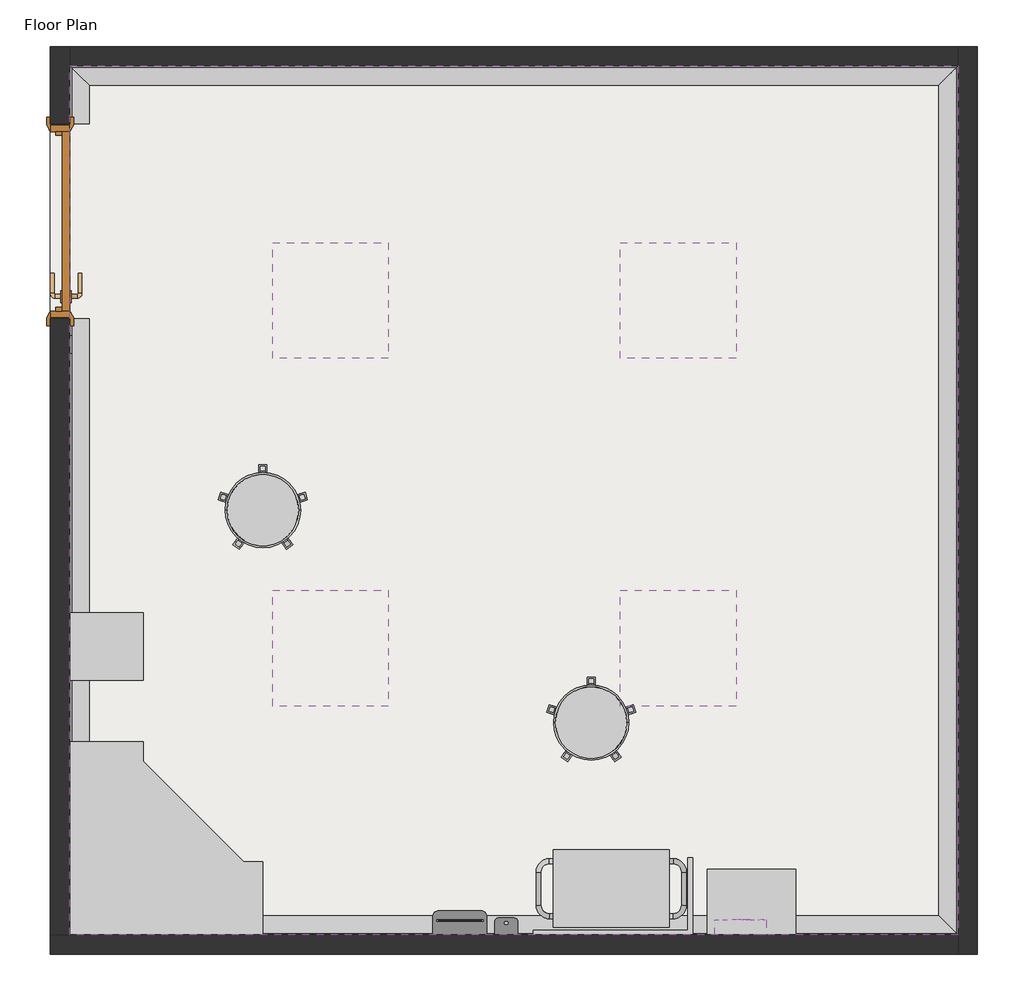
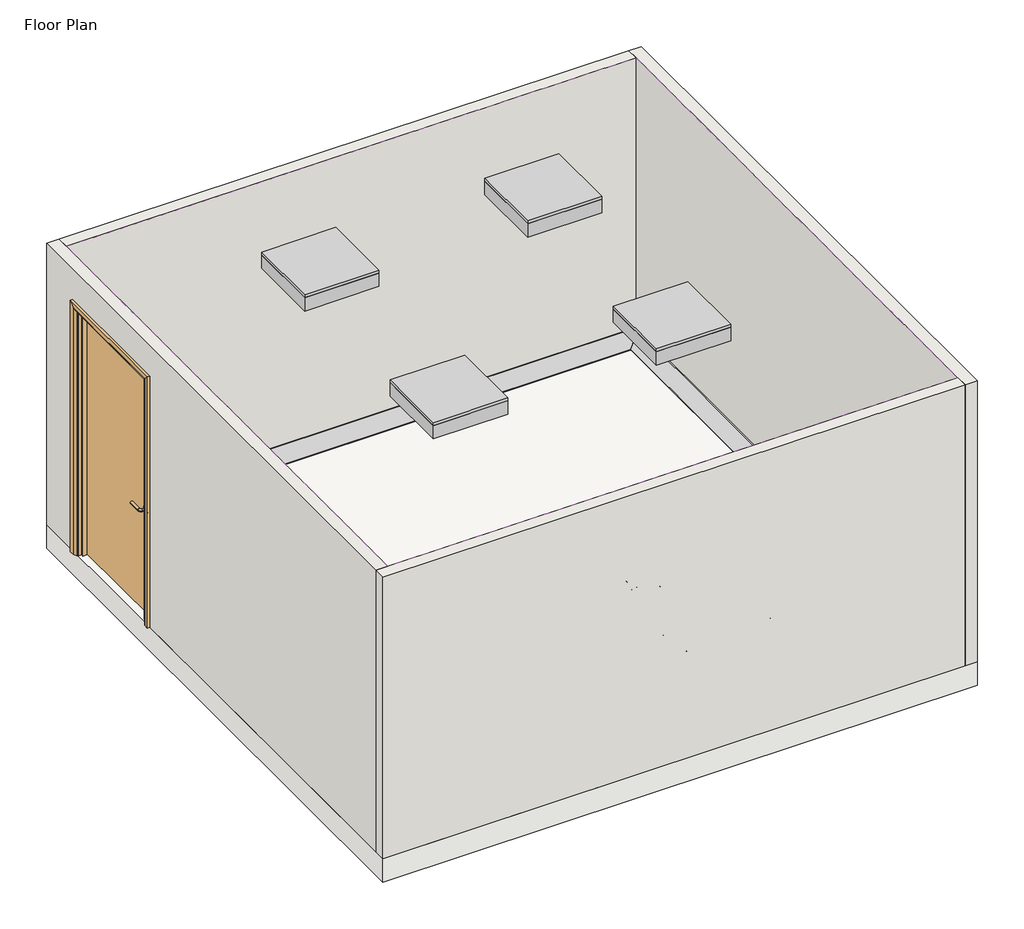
# One storey, incomplete: 13 proxies, 4 light fixtures, 4 walls, 3 furniture elements, 1 covering, 1 door, 1 slab.
"""IFC4 building model written with IfcOpenShell, lengths in millimetres."""

from ifc_helpers import new_model, si_unit, frame, origin, origin_with_axes, place, context, project, spatial, polyline, circle_curve, ellipse_curve, outline, extrude, faceted_brep, transform, mapped, element, save
from ifc_brep_helpers import plane_surface, revolved_surface, advanced_brep
from components import generic_models_a235ff02, generic_models_e5edc786, generic_models_83ba9ecb, generic_models_581be9f4, generic_models_a019e9e6, generic_models_cdc84ac3, bimhealth_electrical_light_switch_v1_type_1_b5e59f8a, bimhealth_trolley_mobile_cart_v1_bimhealth_trolley_mobile_f11bc73b, door_1010x2110mm_ad0e13af, furniture_26d36cfe, furniture_c6a9ce10, furniture_166ce8d1, lighting_fixtures_troffer_parabolic_square_600x600mm_2_lamps_e1dca80e

model = new_model("IFC4")

# Units and contexts
model_context = context("Model", 3, world=origin())
ifc_project = project(units=[si_unit("LENGTHUNIT", "METRE", prefix="MILLI")], contexts=[model_context])

# Site, building, storey
site = spatial("IfcSite", under=ifc_project)
building = spatial("IfcBuilding", under=site)
storey = spatial("IfcBuildingStorey", under=building, Name="Floor Plan", Elevation=0.0)

# Proxies
placement = place(None, origin())
element("IfcBuildingElementProxy", 1, Name="Wall Sweeps", at=placement, inside=storey, context=model_context, shape_type="AdvancedBrep", body=[
    advanced_brep(
    [(4505.0, 4915.0, 0.0), (4405.0, 4815.0, 0.0), (4405.0, 4815.0, 10.0), (4495.0, 4905.0, 100.0), (4505.0, 4915.0, 100.0), (4505.0, 415.0, 0.0), (4505.0, 415.0, 100.0), (4495.0, 425.0, 100.0), (4405.0, 515.0, 10.0), (4405.0, 515.0, 0.0)],
    [
        (0, 1),
        (1, 2),
        (2, 3, ellipse_curve(frame((4405.0, 4815.0, 100.0), z_axis=(0.7071067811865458, -0.7071067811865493, 0.0), x_axis=(-0.7071067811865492, -0.7071067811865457, 0.0)), 127.2792206, 90.0)),
        (3, 4),
        (4, 0),
        (5, 6),
        (6, 7),
        (7, 8, ellipse_curve(frame((4405.0, 515.0, 100.0), z_axis=(0.7071067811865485, 0.7071067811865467, 0.0), x_axis=(0.7071067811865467, -0.7071067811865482, 0.0)), 127.2792206, 90.0)),
        (8, 9),
        (9, 5),
        (0, 5),
        (9, 1),
        (8, 2),
        (7, 3),
        (6, 4),
    ],
    [
        plane_surface(frame((4505.0, 4915.0, 304.8), z_axis=(-0.7071067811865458, 0.7071067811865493, 0.0), x_axis=(-0.7071067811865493, -0.7071067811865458, 0.0))),
        plane_surface(frame((4505.0, 415.0, 304.8), z_axis=(-0.7071067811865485, -0.7071067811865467, 0.0), x_axis=(-0.7071067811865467, 0.7071067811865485, 0.0))),
        plane_surface(frame((4505.0, 4915.0, 0.0), z_axis=(0.0, 0.0, -1.0), x_axis=(0.0, -1.0, 0.0))),
        plane_surface(frame((4405.0, 4815.0, 0.0), z_axis=(-1.0, 0.0, 0.0), x_axis=(0.0, -1.0, 0.0))),
        revolved_surface(polyline([(4315.0, 425.0, 100.0), (4315.0, 4905.0, 100.0)]), (4405.0, 4915.0, 100.0), (0.0, -1.0, 0.0)),
        plane_surface(frame((4495.0, 4905.0, 100.0), z_axis=(0.0, 0.0, 1.0), x_axis=(0.0, -1.0, 0.0))),
        plane_surface(frame((4505.0, 4915.0, 100.0), z_axis=(1.0, 0.0, 0.0), x_axis=(0.0, -1.0, 0.0))),
    ],
    [
        (0, [[1, 2, 3, 4, 5]]),
        (1, [[6, 7, 8, 9, 10]]),
        (2, [[-1, 11, -10, 12]]),
        (3, [[-2, -12, -9, 13]]),
        (4, [[-3, -13, -8, 14]]),
        (5, [[-4, -14, -7, 15]]),
        (6, [[-5, -15, -6, -11]]),
    ],
),
])
element("IfcBuildingElementProxy", 2, Name="Wall Sweeps", at=placement, inside=storey, context=model_context, shape_type="AdvancedBrep", body=[
    advanced_brep(
    [(4505.0, 415.0, 0.0), (4405.0, 515.0, 0.0), (4405.0, 515.0, 10.0), (4495.0, 425.0, 100.0), (4505.0, 415.0, 100.0), (-95.0, 415.0, 0.0), (-95.0, 415.0, 100.0), (-85.0, 425.0, 100.0), (5.0, 515.0, 10.0), (5.0, 515.0, 0.0)],
    [
        (0, 1),
        (1, 2),
        (2, 3, ellipse_curve(frame((4405.0, 515.0, 100.0), z_axis=(-0.7071067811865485, -0.7071067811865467, 0.0), x_axis=(-0.7071067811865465, 0.7071067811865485, 0.0)), 127.2792206, 90.0)),
        (3, 4),
        (4, 0),
        (5, 6),
        (6, 7),
        (7, 8, ellipse_curve(frame((5.0, 515.0, 100.0), z_axis=(0.707106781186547, -0.707106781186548, 0.0), x_axis=(-0.7071067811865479, -0.707106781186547, 0.0)), 127.2792206, 90.0)),
        (8, 9),
        (9, 5),
        (0, 5),
        (9, 1),
        (8, 2),
        (7, 3),
        (6, 4),
    ],
    [
        plane_surface(frame((4505.0, 415.0, 304.8), z_axis=(0.7071067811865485, 0.7071067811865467, 0.0), x_axis=(-0.7071067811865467, 0.7071067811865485, 0.0))),
        plane_surface(frame((-95.0, 415.0, 304.8), z_axis=(-0.707106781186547, 0.707106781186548, 0.0), x_axis=(0.707106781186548, 0.707106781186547, 0.0))),
        plane_surface(frame((4505.0, 415.0, 0.0), z_axis=(0.0, 0.0, -1.0), x_axis=(-1.0, 0.0, 0.0))),
        plane_surface(frame((4405.0, 515.0, 0.0), z_axis=(0.0, 1.0, 0.0), x_axis=(-1.0, 0.0, 0.0))),
        revolved_surface(polyline([(-85.0, 605.0, 100.0), (4495.0, 605.0, 100.0)]), (4505.0, 515.0, 100.0), (-1.0, 0.0, 0.0)),
        plane_surface(frame((4495.0, 425.0, 100.0), z_axis=(0.0, 0.0, 1.0), x_axis=(-1.0, 0.0, 0.0))),
        plane_surface(frame((4505.0, 415.0, 100.0), z_axis=(0.0, -1.0, 0.0), x_axis=(-1.0, 0.0, 0.0))),
    ],
    [
        (0, [[1, 2, 3, 4, 5]]),
        (1, [[6, 7, 8, 9, 10]]),
        (2, [[-1, 11, -10, 12]]),
        (3, [[-2, -12, -9, 13]]),
        (4, [[-3, -13, -8, 14]]),
        (5, [[-4, -14, -7, 15]]),
        (6, [[-5, -15, -6, -11]]),
    ],
),
])
element("IfcBuildingElementProxy", 3, Name="Wall Sweeps", at=placement, inside=storey, context=model_context, shape_type="AdvancedBrep", body=[
    advanced_brep(
    [(-95.0, 415.0, 0.0), (5.0, 515.0, 0.0), (5.0, 515.0, 10.0), (-85.0, 425.0, 100.0), (-95.0, 415.0, 100.0), (-95.0, 3605.0, 0.0), (-95.0, 3605.0, 100.0), (-85.0, 3605.0, 100.0), (5.0, 3605.0, 10.0), (5.0, 3605.0, 0.0)],
    [
        (0, 1),
        (1, 2),
        (2, 3, ellipse_curve(frame((5.0, 515.0, 100.0), z_axis=(-0.707106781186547, 0.707106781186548, 0.0), x_axis=(0.707106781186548, 0.7071067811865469, 0.0)), 127.2792206, 90.0)),
        (3, 4),
        (4, 0),
        (5, 6),
        (6, 7),
        (7, 8, circle_curve(frame((5.0, 3605.0, 100.0), z_axis=(0.0, -1.0, 0.0), x_axis=(1.0, 0.0, 0.0)), 90.0)),
        (8, 9),
        (9, 5),
        (0, 5),
        (9, 1),
        (8, 2),
        (7, 3),
        (6, 4),
    ],
    [
        plane_surface(frame((-95.0, 415.0, 304.8), z_axis=(0.707106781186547, -0.707106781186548, 0.0), x_axis=(0.707106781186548, 0.707106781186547, 0.0))),
        plane_surface(frame((-195.4987562, 3605.0, 0.0), z_axis=(0.0, 1.0, 0.0), x_axis=(0.0, 0.0, 1.0))),
        plane_surface(frame((-95.0, 415.0, 0.0), z_axis=(0.0, 0.0, -1.0), x_axis=(0.0, 1.0, 0.0))),
        plane_surface(frame((5.0, 515.0, 0.0), z_axis=(1.0, 0.0, 0.0), x_axis=(0.0, 1.0, 0.0))),
        revolved_surface(polyline([(95.0, 3605.0, 100.0), (95.0, 425.0, 100.0)]), (5.0, 415.0, 100.0), (0.0, 1.0, 0.0)),
        plane_surface(frame((-85.0, 425.0, 100.0), z_axis=(0.0, 0.0, 1.0), x_axis=(0.0, 1.0, 0.0))),
        plane_surface(frame((-95.0, 415.0, 100.0), z_axis=(-1.0, 0.0, 0.0), x_axis=(0.0, 1.0, 0.0))),
    ],
    [
        (0, [[1, 2, 3, 4, 5]]),
        (1, [[6, 7, 8, 9, 10]]),
        (2, [[-1, 11, -10, 12]]),
        (3, [[-2, -12, -9, 13]]),
        (4, [[-3, -13, -8, 14]]),
        (5, [[-4, -14, -7, 15]]),
        (6, [[-5, -15, -6, -11]]),
    ],
),
    advanced_brep(
    [(-95.0, 4615.0, 0.0), (5.0, 4615.0, 0.0), (5.0, 4615.0, 10.0), (-85.0, 4615.0, 100.0), (-95.0, 4615.0, 100.0), (-95.0, 4915.0, 0.0), (-95.0, 4915.0, 100.0), (-85.0, 4905.0, 100.0), (5.0, 4815.0, 10.0), (5.0, 4815.0, 0.0)],
    [
        (0, 1),
        (1, 2),
        (2, 3, circle_curve(frame((5.0, 4615.0, 100.0), z_axis=(0.0, 1.0, 0.0), x_axis=(1.0, 0.0, 0.0)), 90.0)),
        (3, 4),
        (4, 0),
        (5, 6),
        (6, 7),
        (7, 8, ellipse_curve(frame((5.0, 4815.0, 100.0), z_axis=(-0.7071067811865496, -0.7071067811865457, 0.0), x_axis=(-0.7071067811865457, 0.7071067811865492, 0.0)), 127.2792206, 90.0)),
        (8, 9),
        (9, 5),
        (0, 5),
        (9, 1),
        (8, 2),
        (7, 3),
        (6, 4),
    ],
    [
        plane_surface(frame((-195.4987562, 4615.0, 0.0), z_axis=(0.0, -1.0, 0.0), x_axis=(0.0, 0.0, 1.0))),
        plane_surface(frame((-95.0, 4915.0, 304.8), z_axis=(0.7071067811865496, 0.7071067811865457, 0.0), x_axis=(0.7071067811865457, -0.7071067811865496, 0.0))),
        plane_surface(frame((-95.0, 4615.0, 0.0), z_axis=(0.0, 0.0, -1.0), x_axis=(0.0, 1.0, 0.0))),
        plane_surface(frame((5.0, 4615.0, 0.0), z_axis=(1.0, 0.0, 0.0), x_axis=(0.0, 1.0, 0.0))),
        revolved_surface(polyline([(95.0, 4905.0, 100.0), (95.0, 4615.0, 100.0)]), (5.0, 4615.0, 100.0), (0.0, 1.0, 0.0)),
        plane_surface(frame((-85.0, 4615.0, 100.0), z_axis=(0.0, 0.0, 1.0), x_axis=(0.0, 1.0, 0.0))),
        plane_surface(frame((-95.0, 4615.0, 100.0), z_axis=(-1.0, 0.0, 0.0), x_axis=(0.0, 1.0, 0.0))),
    ],
    [
        (0, [[1, 2, 3, 4, 5]]),
        (1, [[6, 7, 8, 9, 10]]),
        (2, [[-1, 11, -10, 12]]),
        (3, [[-2, -12, -9, 13]]),
        (4, [[-3, -13, -8, 14]]),
        (5, [[-4, -14, -7, 15]]),
        (6, [[-5, -15, -6, -11]]),
    ],
),
])
element("IfcBuildingElementProxy", 4, Name="Wall Sweeps", at=placement, inside=storey, context=model_context, shape_type="AdvancedBrep", body=[
    advanced_brep(
    [(-95.0, 4915.0, 0.0), (5.0, 4815.0, 0.0), (5.0, 4815.0, 10.0), (-85.0, 4905.0, 100.0), (-95.0, 4915.0, 100.0), (4505.0, 4915.0, 0.0), (4505.0, 4915.0, 100.0), (4495.0, 4905.0, 100.0), (4405.0, 4815.0, 10.0), (4405.0, 4815.0, 0.0)],
    [
        (0, 1),
        (1, 2),
        (2, 3, ellipse_curve(frame((5.0, 4815.0, 100.0), z_axis=(0.7071067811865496, 0.7071067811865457, 0.0), x_axis=(0.7071067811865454, -0.7071067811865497, 0.0)), 127.2792206, 90.0)),
        (3, 4),
        (4, 0),
        (5, 6),
        (6, 7),
        (7, 8, ellipse_curve(frame((4405.0, 4815.0, 100.0), z_axis=(-0.7071067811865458, 0.7071067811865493, 0.0), x_axis=(0.7071067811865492, 0.7071067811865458, 0.0)), 127.2792206, 90.0)),
        (8, 9),
        (9, 5),
        (0, 5),
        (9, 1),
        (8, 2),
        (7, 3),
        (6, 4),
    ],
    [
        plane_surface(frame((-95.0, 4915.0, 304.8), z_axis=(-0.7071067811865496, -0.7071067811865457, 0.0), x_axis=(0.7071067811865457, -0.7071067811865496, 0.0))),
        plane_surface(frame((4505.0, 4915.0, 304.8), z_axis=(0.7071067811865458, -0.7071067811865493, 0.0), x_axis=(-0.7071067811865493, -0.7071067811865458, 0.0))),
        plane_surface(frame((-95.0, 4915.0, 0.0), z_axis=(0.0, 0.0, -1.0), x_axis=(1.0, 0.0, 0.0))),
        plane_surface(frame((5.0, 4815.0, 0.0), z_axis=(0.0, -1.0, 0.0), x_axis=(1.0, 0.0, 0.0))),
        revolved_surface(polyline([(4495.0, 4725.0, 100.0), (-85.0, 4725.0, 100.0)]), (-95.0, 4815.0, 100.0), (1.0, 0.0, 0.0)),
        plane_surface(frame((-85.0, 4905.0, 100.0), z_axis=(0.0, 0.0, 1.0), x_axis=(1.0, 0.0, 0.0))),
        plane_surface(frame((-95.0, 4915.0, 100.0), z_axis=(0.0, 1.0, 0.0), x_axis=(1.0, 0.0, 0.0))),
    ],
    [
        (0, [[1, 2, 3, 4, 5]]),
        (1, [[6, 7, 8, 9, 10]]),
        (2, [[-1, 11, -10, 12]]),
        (3, [[-2, -12, -9, 13]]),
        (4, [[-3, -13, -8, 14]]),
        (5, [[-4, -14, -7, 15]]),
        (6, [[-5, -15, -6, -11]]),
    ],
),
])
generic_models_shape = generic_models_a235ff02(model_context)
element("IfcBuildingElementProxy", 5, Name="BIMHealth-Suction_Motor-LOD2A-v1 : BIMHealth-Suction_Motor-LOD2A-v1", ObjectType="BIMHealth-Suction_Motor-LOD2A-v1 : BIMHealth-Suction_Motor-LOD2A-v1", at=placement, inside=storey, context=model_context, shape_type="MappedRepresentation", body=[
    mapped(generic_models_shape, transform((115.0, 629.5636945, 400.0), x_axis=(0.0, 1.0, 0.0), y_axis=(-1.0, 0.0, 0.0), z_axis=(0.0, 0.0, 1.0))),
])
generic_models_2_shape = generic_models_e5edc786(model_context)
element("IfcBuildingElementProxy", 6, Name="BIMHealth-Stool-LOD2A-v1 : BIMHealth-Stool-LOD2A-v1", ObjectType="BIMHealth-Stool-LOD2A-v1 : BIMHealth-Stool-LOD2A-v1", at=placement, inside=storey, context=model_context, shape_type="MappedRepresentation", body=[
    mapped(generic_models_2_shape, transform((905.0, 2615.0, 0.0), x_axis=(1.0, 0.0, 0.0), y_axis=(0.0, 1.0, 0.0), z_axis=(0.0, 0.0, 1.0))),
])
element("IfcBuildingElementProxy", 7, Name="BIMHealth-Stool-LOD2A-v1 : BIMHealth-Stool-LOD2A-v1", ObjectType="BIMHealth-Stool-LOD2A-v1 : BIMHealth-Stool-LOD2A-v1", at=placement, inside=storey, context=model_context, shape_type="MappedRepresentation", body=[
    mapped(generic_models_2_shape, transform((2605.0, 1515.0, 0.0), x_axis=(1.0, 0.0, 0.0), y_axis=(0.0, 1.0, 0.0), z_axis=(0.0, 0.0, 1.0))),
])
generic_models_3_shape = generic_models_83ba9ecb(model_context)
element("IfcBuildingElementProxy", 8, Name="BIMHealth-500x350mm_Suction_Cabinet-LOD2A-v1 : BIMHealth-500x350mm_Suction_Cabinet-LOD2A-v1", ObjectType="BIMHealth-500x350mm_Suction_Cabinet-LOD2A-v1 : BIMHealth-500x350mm_Suction_Cabinet-LOD2A-v1", at=placement, inside=storey, context=model_context, shape_type="MappedRepresentation", body=[
    mapped(generic_models_3_shape, transform((287.0, 1908.0, 0.0), x_axis=(0.0, 1.0000000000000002, 0.0), y_axis=(-1.0000000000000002, 0.0, 0.0), z_axis=(0.0, 0.0, 1.0))),
])
generic_models_4_shape = generic_models_581be9f4(model_context)
element("IfcBuildingElementProxy", 9, Name="BIMHealth-600mm_Trolley_Bay-LOD2A-v1 : BIMHealth-600mm_Trolley_Bay-LOD2A-v1", ObjectType="BIMHealth-600mm_Trolley_Bay-LOD2A-v1 : BIMHealth-600mm_Trolley_Bay-LOD2A-v1", at=placement, inside=storey, context=model_context, shape_type="MappedRepresentation", body=[
    mapped(generic_models_4_shape, transform((2617.5, 415.0, 0.0), x_axis=(-1.0, 0.0, 0.0), y_axis=(0.0, -1.0, 0.0), z_axis=(0.0, 0.0, 1.0))),
])
generic_models_5_shape = generic_models_a019e9e6(model_context)
element("IfcBuildingElementProxy", 10, Name="BIMHealth-Corner_Desk-LOD2A-v1 : BIMHealth-Corner_Desk-LOD2A-v1", ObjectType="BIMHealth-Corner_Desk-LOD2A-v1 : BIMHealth-Corner_Desk-LOD2A-v1", at=placement, inside=storey, context=model_context, shape_type="MappedRepresentation", body=[
    mapped(generic_models_5_shape, transform((-95.0, 415.0, 0.0), x_axis=(1.0, 0.0, 0.0), y_axis=(0.0, 1.0, 0.0), z_axis=(0.0, 0.0, 1.0))),
])
generic_models_6_shape = generic_models_cdc84ac3(model_context)
element("IfcBuildingElementProxy", 11, Name="BIMHealth-Glove_Dispenser-LOD2A-v1.0005 : BIMHealth-Glove_Dispenser-LOD2A-v1.0005", ObjectType="BIMHealth-Glove_Dispenser-LOD2A-v1.0005 : BIMHealth-Glove_Dispenser-LOD2A-v1.0005", at=placement, inside=storey, context=model_context, shape_type="MappedRepresentation", body=[
    mapped(generic_models_6_shape, transform((3511.0, 415.0, 0.0), x_axis=(-1.0, 0.0, 0.0), y_axis=(0.0, -1.0, 0.0), z_axis=(0.0, 0.0, 1.0))),
])
bimhealth_electrical_light_switch_v1_type_1_shape = bimhealth_electrical_light_switch_v1_type_1_b5e59f8a(model_context)
element("IfcBuildingElementProxy", 12, Name="BIMHealth-Electrical-Light_Switch-v1 : Type 1", ObjectType="BIMHealth-Electrical-Light_Switch-v1 : Type 1", at=placement, inside=storey, context=model_context, shape_type="MappedRepresentation", body=[
    mapped(bimhealth_electrical_light_switch_v1_type_1_shape, transform((-145.0, 3642.5, -60.0), x_axis=(0.0, -1.0, 0.0), y_axis=(1.0, 0.0, 0.0), z_axis=(0.0, 0.0, 1.0))),
])
bimhealth_trolley_mobile_cart_v1_bimhealth_trolley_mobile_shape = bimhealth_trolley_mobile_cart_v1_bimhealth_trolley_mobile_f11bc73b(model_context)
element("IfcBuildingElementProxy", 13, Name="BIMHealth-Trolley_Mobile_Cart-v1 : BIMHealth-Trolley_Mobile_Cart-v1", ObjectType="BIMHealth-Trolley_Mobile_Cart-v1 : BIMHealth-Trolley_Mobile_Cart-v1", at=placement, inside=storey, context=model_context, shape_type="MappedRepresentation", body=[
    mapped(bimhealth_trolley_mobile_cart_v1_bimhealth_trolley_mobile_shape, transform((2708.9254027, 855.0, 0.0), x_axis=(1.0, 0.0, 0.0), y_axis=(0.0, 1.0, 0.0), z_axis=(0.0, 0.0, 1.0))),
])

# Covering
element("IfcCovering", 14, ObjectType="BIMHealth - Generic Ceiling", at=placement, inside=storey, context=model_context, shape_type="SweptSolid", body=[
    extrude(outline(polyline([(4505.0, 4915.0), (4505.0, 415.0), (-95.0, 415.0), (-95.0, 4915.0), (4505.0, 4915.0)]), holes=[polyline([(1555.0, 2200.0), (955.0, 2200.0), (955.0, 1600.0), (1555.0, 1600.0), (1555.0, 2200.0)]), polyline([(3355.0, 2200.0), (2755.0, 2200.0), (2755.0, 1600.0), (3355.0, 1600.0), (3355.0, 2200.0)]), polyline([(1555.0, 4000.0), (955.0, 4000.0), (955.0, 3400.0), (1555.0, 3400.0), (1555.0, 4000.0)]), polyline([(3355.0, 4000.0), (2755.0, 4000.0), (2755.0, 3400.0), (3355.0, 3400.0), (3355.0, 4000.0)])]), frame((0.0, 0.0, 2400.0), z_axis=(0.0, 0.0, 1.0), x_axis=(1.0, 0.0, 0.0)), (0.0, 0.0, 1.0), 52.0),
])

# Door
door_1010x2110mm_shape = door_1010x2110mm_ad0e13af(model_context)
element("IfcDoor", 15, ObjectType="BIMHealth-Single_Door-LOD2A-v1 : 1010x2110mm", at=placement, inside=storey, context=model_context, shape_type="MappedRepresentation", body=[
    mapped(door_1010x2110mm_shape, transform((-145.0, 4110.0, 0.0), x_axis=(0.0, 1.0, 0.0), y_axis=(-1.0, 0.0, 0.0), z_axis=(0.0, 0.0, 1.0))),
])

# Furniture
furniture_shape = furniture_26d36cfe(model_context)
element("IfcFurniture", 16, ObjectType="BIMHealth-Soap_Dispenser-LOD2A-v1 : BIMHealth-Soap_Dispenser-LOD2A-v1", at=placement, inside=storey, context=model_context, shape_type="MappedRepresentation", body=[
    mapped(furniture_shape, transform((2225.0, 415.0, 0.0), x_axis=(-0.9999999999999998, 0.0, 0.0), y_axis=(0.0, -0.9999999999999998, 0.0), z_axis=(0.0, 0.0, 1.0))),
])
furniture_2_shape = furniture_c6a9ce10(model_context)
element("IfcFurniture", 17, ObjectType="BIMHealth-Bin_Clinical_Foot_Operated-LOD2A-v1 : BIMHealth-Bin_Clinical_Foot_Operated-LOD2A-v1", at=placement, inside=storey, context=model_context, shape_type="MappedRepresentation", body=[
    mapped(furniture_2_shape, transform((3215.0, 745.0, 0.0), x_axis=(1.0, 0.0, 0.0), y_axis=(0.0, 1.0, 0.0), z_axis=(0.0, 0.0, 1.0))),
])
furniture_3_shape = furniture_166ce8d1(model_context)
element("IfcFurniture", 18, ObjectType="BIMHealth-Paper_Towel_Dispenser-LOD2A-v1 : BIMHealth-Paper_Towel_Dispenser-LOD2A-v1", at=placement, inside=storey, context=model_context, shape_type="MappedRepresentation", body=[
    mapped(furniture_3_shape, transform((2065.0, 415.0, 0.0), x_axis=(-1.0000000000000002, 0.0, 0.0), y_axis=(0.0, -1.0000000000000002, 0.0), z_axis=(0.0, 0.0, 1.0))),
])

# Light fixtures
lighting_fixtures_troffer_parabolic_square_600x600mm_2_lamps_shape = lighting_fixtures_troffer_parabolic_square_600x600mm_2_lamps_e1dca80e(model_context)
element("IfcLightFixture", 19, ObjectType="Lighting_Fixtures_Troffer_Parabolic_Square : 600x600mm-2_Lamps", at=placement, inside=storey, context=model_context, shape_type="MappedRepresentation", body=[
    mapped(lighting_fixtures_troffer_parabolic_square_600x600mm_2_lamps_shape, transform((1278.5035016, 1954.6659321, -38.4), x_axis=(1.0, 0.0, 0.0), y_axis=(0.0, 1.0, 0.0), z_axis=(0.0, 0.0, 1.0))),
])
element("IfcLightFixture", 20, ObjectType="Lighting_Fixtures_Troffer_Parabolic_Square : 600x600mm-2_Lamps", at=placement, inside=storey, context=model_context, shape_type="MappedRepresentation", body=[
    mapped(lighting_fixtures_troffer_parabolic_square_600x600mm_2_lamps_shape, transform((3078.5035016, 1954.6659321, -38.4), x_axis=(1.0, 0.0, 0.0), y_axis=(0.0, 1.0, 0.0), z_axis=(0.0, 0.0, 1.0))),
])
element("IfcLightFixture", 21, ObjectType="Lighting_Fixtures_Troffer_Parabolic_Square : 600x600mm-2_Lamps", at=placement, inside=storey, context=model_context, shape_type="MappedRepresentation", body=[
    mapped(lighting_fixtures_troffer_parabolic_square_600x600mm_2_lamps_shape, transform((1278.5035016, 3754.6659321, -38.4), x_axis=(1.0, 0.0, 0.0), y_axis=(0.0, 1.0, 0.0), z_axis=(0.0, 0.0, 1.0))),
])
element("IfcLightFixture", 22, ObjectType="Lighting_Fixtures_Troffer_Parabolic_Square : 600x600mm-2_Lamps", at=placement, inside=storey, context=model_context, shape_type="MappedRepresentation", body=[
    mapped(lighting_fixtures_troffer_parabolic_square_600x600mm_2_lamps_shape, transform((3078.5035016, 3754.6659321, -38.4), x_axis=(1.0, 0.0, 0.0), y_axis=(0.0, 1.0, 0.0), z_axis=(0.0, 0.0, 1.0))),
])

# Slab
element("IfcSlab", 23, ObjectType="BIMHealth - Generic Floor", at=placement, inside=storey, context=model_context, shape_type="SweptSolid", body=[
    extrude(outline(polyline([(4605.0, 5015.0), (4605.0, 315.0), (-195.0, 315.0), (-195.0, 5015.0), (4605.0, 5015.0)])), frame((0.0, 0.0, -200.0), z_axis=(0.0, 0.0, 1.0), x_axis=(1.0, 0.0, 0.0)), (0.0, 0.0, 1.0), 200.0),
])

# Walls
element("IfcWall", 24, ObjectType="BIMHealth - Generic Wall", at=placement, inside=storey, context=model_context, shape_type="Brep", body=[
    faceted_brep([(4505.0, 5015.0, 0.0), (4505.0, 4915.0, 0.0), (4505.0, 415.0, 0.0), (4505.0, 315.0, 0.0), (4505.0, 315.0, 2400.0), (4505.0, 415.0, 2400.0), (4505.0, 4915.0, 2400.0), (4505.0, 5015.0, 2400.0), (4605.0, 5015.0, 0.0), (4605.0, 5015.0, 2400.0), (4605.0, 315.0, 2400.0), (4605.0, 315.0, 0.0)], [[[0, 1, 2, 3, 4, 5, 6, 7]], [[8, 9, 10, 11]], [[3, 2, 1, 0, 8, 11]], [[7, 6, 5, 4, 10, 9]], [[4, 3, 11, 10]], [[0, 7, 9, 8]]]),
])
element("IfcWall", 25, ObjectType="BIMHealth - Generic Wall", at=placement, inside=storey, context=model_context, shape_type="Brep", body=[
    faceted_brep([(4505.0, 415.0, 0.0), (-95.0, 415.0, 0.0), (-195.0, 415.0, 0.0), (-195.0, 415.0, 2400.0), (-95.0, 415.0, 2400.0), (4505.0, 415.0, 2400.0), (4505.0, 315.0, 0.0), (4505.0, 315.0, 2400.0), (-195.0, 315.0, 2400.0), (-195.0, 315.0, 0.0)], [[[0, 1, 2, 3, 4, 5]], [[6, 7, 8, 9]], [[2, 1, 0, 6, 9]], [[5, 4, 3, 8, 7]], [[0, 5, 7, 6]], [[3, 2, 9, 8]]]),
])
element("IfcWall", 26, ObjectType="BIMHealth - Generic Wall", at=placement, inside=storey, context=model_context, shape_type="Brep", body=[
    faceted_brep([(-95.0, 5015.0, 2400.0), (-95.0, 4915.0, 2400.0), (-95.0, 415.0, 2400.0), (-95.0, 415.0, 0.0), (-95.0, 3605.0, 0.0), (-95.0, 3605.0, 100.0), (-95.0, 3605.0, 2110.0), (-95.0, 4615.0, 2110.0), (-95.0, 4615.0, 100.0), (-95.0, 4615.0, 0.0), (-95.0, 4915.0, 0.0), (-95.0, 5015.0, 0.0), (-195.0, 415.0, 2400.0), (-195.0, 5015.0, 2400.0), (-195.0, 5015.0, 0.0), (-195.0, 4615.0, 0.0), (-195.0, 4615.0, 2110.0), (-195.0, 3605.0, 2110.0), (-195.0, 3605.0, 0.0), (-195.0, 415.0, 0.0)], [[[0, 1, 2, 3, 4, 5, 6, 7, 8, 9, 10, 11]], [[12, 13, 14, 15, 16, 17, 18, 19]], [[3, 19, 18, 4]], [[14, 11, 10, 9, 15]], [[2, 1, 0, 13, 12]], [[3, 2, 12, 19]], [[0, 11, 14, 13]], [[7, 16, 15, 9, 8]], [[16, 7, 6, 17]], [[17, 6, 5, 4, 18]]]),
])
element("IfcWall", 27, ObjectType="BIMHealth - Generic Wall", at=placement, inside=storey, context=model_context, shape_type="SweptSolid", body=[
    extrude(outline(polyline([(4505.0, 4915.0), (-95.0, 4915.0), (-95.0, 5015.0), (4505.0, 5015.0), (4505.0, 4915.0)])), origin_with_axes(), (0.0, 0.0, 1.0), 2400.0),
])

save(model, "model.ifc")
